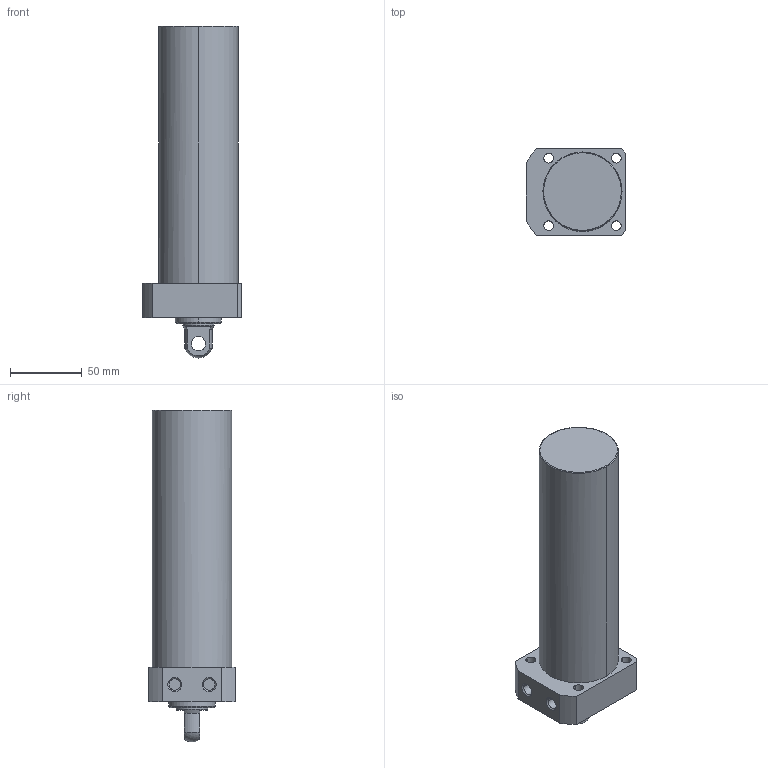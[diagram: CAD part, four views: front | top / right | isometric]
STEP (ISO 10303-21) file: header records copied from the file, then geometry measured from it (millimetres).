
FILE_DESCRIPTION((' '),'2;1');
FILE_NAME( 'TLLR-055CP-150.STEP.stp', '2025-10-24T16:34:53', (' '), ('--- Datakit www.datakit.com---'), ' Datakit CrossCadWare V2024.1 Dec 21 2023', 'Mastercam 2025', ' ');
FILE_SCHEMA(('AUTOMOTIVE_DESIGN { 1 0 10303 214 1 1 1 1 }'));
Length unit declared in the file: millimetre
Products named in the file (1): TLLR-055CP-150
Bounding box: 69 x 60 x 230.93 mm (x, y, z)
Volume: 524797.3 mm3; surface area: 49147.1 mm2
Topology: 1 solids, 1 shells, 57 faces, 164 edges, 116 vertices
Faces by surface type: cylinder 28, plane 18, cone 8, torus 2, sphere 1
Entity records: 2006 total; most frequent: DIRECTION 378, CARTESIAN_POINT 350, ORIENTED_EDGE 328, EDGE_CURVE 164, AXIS2_PLACEMENT_3D 160, VERTEX_POINT 116, CIRCLE 102, EDGE_LOOP 74
